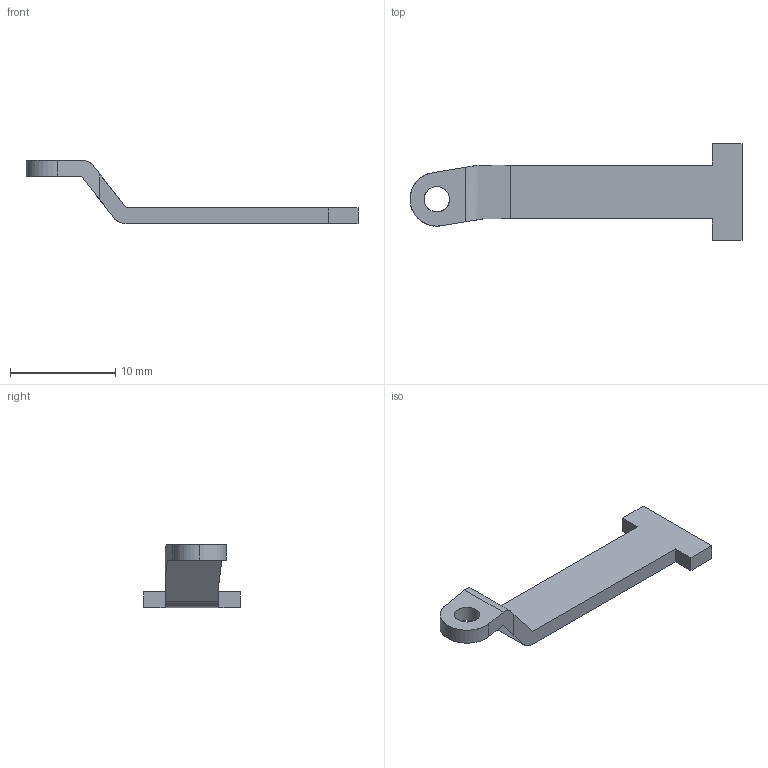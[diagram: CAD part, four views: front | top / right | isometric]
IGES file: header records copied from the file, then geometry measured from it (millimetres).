
Start section: SolidWorks IGES file using analytic representation for surfaces
Global section: file name: C:\Users\cbrechard\Desktop\GP 9\09.070.00.IGS; native system: SolidWorks 2008; preprocessor: SolidWorks 2008; author: cbrechard; date: 130305.170927; units: millimetre
Bounding box: 31.5 x 9.2 x 6 mm (x, y, z)
Surface area: 488.3 mm2 (no closed solid volume)
Topology: 0 solids, 0 shells, 21 faces, 218 edges, 218 vertices
Faces by surface type: bspline 15, revolution 6
